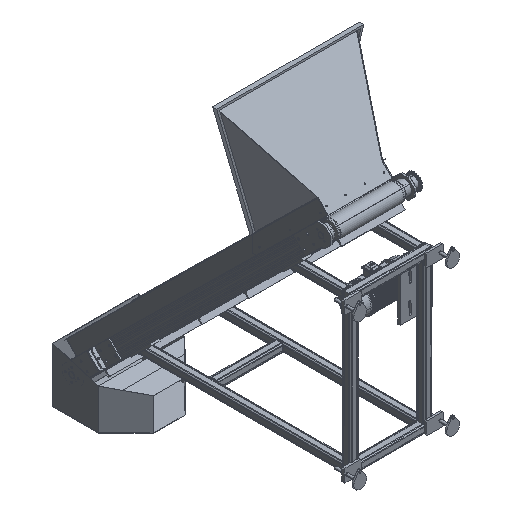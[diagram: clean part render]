
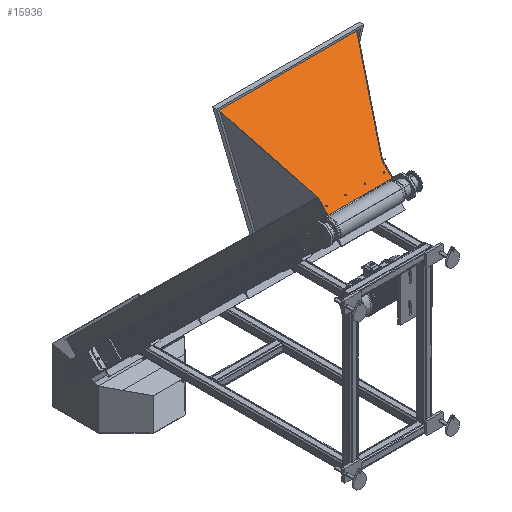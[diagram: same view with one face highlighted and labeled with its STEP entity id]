
A CAD part, isometric view. The second image highlights one B-rep face of the part: STEP entity #15936.
In plain terms, the highlighted planar face has unit normal (0, -0.712, 0.702) as drawn and (-0.707, -0.707, 0) by its records, which use the part's own axes.
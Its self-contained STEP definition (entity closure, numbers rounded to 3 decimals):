
#3262=PLANE('',#55453);
#4328=FACE_BOUND('',#21698,.T.);
#4329=FACE_BOUND('',#21699,.T.);
#4330=FACE_BOUND('',#21700,.T.);
#4331=FACE_BOUND('',#21701,.T.);
#4332=FACE_BOUND('',#21702,.T.);
#8718=LINE('',#74705,#12226);
#8721=LINE('',#74715,#12229);
#8722=LINE('',#74717,#12230);
#8723=LINE('',#74719,#12231);
#8724=LINE('',#74721,#12232);
#8725=LINE('',#74723,#12233);
#12226=VECTOR('',#61037,1.);
#12229=VECTOR('',#61050,1.);
#12230=VECTOR('',#61051,1.);
#12231=VECTOR('',#61052,1.);
#12232=VECTOR('',#61053,1.);
#12233=VECTOR('',#61054,1.);
#15936=ADVANCED_FACE('',(#4328,#4329,#4330,#4331,#4332),#3262,.F.);
#21698=EDGE_LOOP('',(#26607,#26608));
#21699=EDGE_LOOP('',(#26609,#26610));
#21700=EDGE_LOOP('',(#26611,#26612));
#21701=EDGE_LOOP('',(#26613,#26614));
#21702=EDGE_LOOP('',(#26615,#26616,#26617,#26618,#26619,#26620));
#26607=ORIENTED_EDGE('',*,*,#46214,.F.);
#26608=ORIENTED_EDGE('',*,*,#46161,.F.);
#26609=ORIENTED_EDGE('',*,*,#46215,.F.);
#26610=ORIENTED_EDGE('',*,*,#46165,.F.);
#26611=ORIENTED_EDGE('',*,*,#46216,.F.);
#26612=ORIENTED_EDGE('',*,*,#46169,.F.);
#26613=ORIENTED_EDGE('',*,*,#46217,.F.);
#26614=ORIENTED_EDGE('',*,*,#46173,.F.);
#26615=ORIENTED_EDGE('',*,*,#46218,.T.);
#26616=ORIENTED_EDGE('',*,*,#46211,.T.);
#26617=ORIENTED_EDGE('',*,*,#46219,.F.);
#26618=ORIENTED_EDGE('',*,*,#46220,.F.);
#26619=ORIENTED_EDGE('',*,*,#46221,.F.);
#26620=ORIENTED_EDGE('',*,*,#46222,.T.);
#40651=VERTEX_POINT('',#74594);
#40652=VERTEX_POINT('',#74596);
#40655=VERTEX_POINT('',#74603);
#40656=VERTEX_POINT('',#74605);
#40659=VERTEX_POINT('',#74612);
#40660=VERTEX_POINT('',#74614);
#40663=VERTEX_POINT('',#74621);
#40664=VERTEX_POINT('',#74623);
#40700=VERTEX_POINT('',#74704);
#40701=VERTEX_POINT('',#74706);
#40703=VERTEX_POINT('',#74716);
#40704=VERTEX_POINT('',#74718);
#40705=VERTEX_POINT('',#74720);
#40706=VERTEX_POINT('',#74722);
#46161=EDGE_CURVE('',#40651,#40652,#53116,.T.);
#46165=EDGE_CURVE('',#40655,#40656,#53118,.T.);
#46169=EDGE_CURVE('',#40659,#40660,#53120,.T.);
#46173=EDGE_CURVE('',#40663,#40664,#53122,.T.);
#46211=EDGE_CURVE('',#40701,#40700,#8718,.T.);
#46214=EDGE_CURVE('',#40652,#40651,#53135,.T.);
#46215=EDGE_CURVE('',#40656,#40655,#53136,.T.);
#46216=EDGE_CURVE('',#40660,#40659,#53137,.T.);
#46217=EDGE_CURVE('',#40664,#40663,#53138,.T.);
#46218=EDGE_CURVE('',#40703,#40701,#8721,.T.);
#46219=EDGE_CURVE('',#40704,#40700,#8722,.T.);
#46220=EDGE_CURVE('',#40705,#40704,#8723,.T.);
#46221=EDGE_CURVE('',#40706,#40705,#8724,.T.);
#46222=EDGE_CURVE('',#40706,#40703,#8725,.T.);
#53116=CIRCLE('',#55418,2.5);
#53118=CIRCLE('',#55421,2.5);
#53120=CIRCLE('',#55424,2.5);
#53122=CIRCLE('',#55427,2.5);
#53135=CIRCLE('',#55449,2.5);
#53136=CIRCLE('',#55450,2.5);
#53137=CIRCLE('',#55451,2.5);
#53138=CIRCLE('',#55452,2.5);
#55418=AXIS2_PLACEMENT_3D('',#74595,#60946,#60947);
#55421=AXIS2_PLACEMENT_3D('',#74604,#60954,#60955);
#55424=AXIS2_PLACEMENT_3D('',#74613,#60962,#60963);
#55427=AXIS2_PLACEMENT_3D('',#74622,#60970,#60971);
#55449=AXIS2_PLACEMENT_3D('',#74711,#61042,#61043);
#55450=AXIS2_PLACEMENT_3D('',#74712,#61044,#61045);
#55451=AXIS2_PLACEMENT_3D('',#74713,#61046,#61047);
#55452=AXIS2_PLACEMENT_3D('',#74714,#61048,#61049);
#55453=AXIS2_PLACEMENT_3D('',#74724,#61055,#61056);
#60946=DIRECTION('',(-0.707,-0.707,0.));
#60947=DIRECTION('',(0.707,-0.707,0.));
#60954=DIRECTION('',(-0.707,-0.707,0.));
#60955=DIRECTION('',(0.707,-0.707,0.));
#60962=DIRECTION('',(-0.707,-0.707,0.));
#60963=DIRECTION('',(0.707,-0.707,0.));
#60970=DIRECTION('',(-0.707,-0.707,0.));
#60971=DIRECTION('',(0.707,-0.707,0.));
#61037=DIRECTION('',(0.,0.,-1.));
#61042=DIRECTION('',(-0.707,-0.707,0.));
#61043=DIRECTION('',(0.707,-0.707,0.));
#61044=DIRECTION('',(-0.707,-0.707,0.));
#61045=DIRECTION('',(0.707,-0.707,0.));
#61046=DIRECTION('',(-0.707,-0.707,0.));
#61047=DIRECTION('',(0.707,-0.707,0.));
#61048=DIRECTION('',(-0.707,-0.707,0.));
#61049=DIRECTION('',(0.707,-0.707,0.));
#61050=DIRECTION('',(-0.652,0.652,0.385));
#61051=DIRECTION('',(-0.652,0.652,-0.385));
#61052=DIRECTION('',(-0.707,0.707,0.));
#61053=DIRECTION('',(0.,0.,-1.));
#61054=DIRECTION('',(-0.707,0.707,0.));
#61055=DIRECTION('',(0.707,0.707,0.));
#61056=DIRECTION('',(0.707,-0.707,0.));
#74594=CARTESIAN_POINT('',(-372.981,-327.019,283.));
#74595=CARTESIAN_POINT('',(-371.213,-328.787,283.));
#74596=CARTESIAN_POINT('',(-369.445,-330.555,283.));
#74603=CARTESIAN_POINT('',(-372.981,-327.019,193.));
#74604=CARTESIAN_POINT('',(-371.213,-328.787,193.));
#74605=CARTESIAN_POINT('',(-369.445,-330.555,193.));
#74612=CARTESIAN_POINT('',(-372.981,-327.019,373.));
#74613=CARTESIAN_POINT('',(-371.213,-328.787,373.));
#74614=CARTESIAN_POINT('',(-369.445,-330.555,373.));
#74621=CARTESIAN_POINT('',(-372.981,-327.019,463.));
#74622=CARTESIAN_POINT('',(-371.213,-328.787,463.));
#74623=CARTESIAN_POINT('',(-369.445,-330.555,463.));
#74704=CARTESIAN_POINT('',(-700.,0.,0.));
#74705=CARTESIAN_POINT('',(-700.,0.,660.));
#74706=CARTESIAN_POINT('',(-700.,0.,660.));
#74711=CARTESIAN_POINT('',(-371.213,-328.787,283.));
#74712=CARTESIAN_POINT('',(-371.213,-328.787,193.));
#74713=CARTESIAN_POINT('',(-371.213,-328.787,373.));
#74714=CARTESIAN_POINT('',(-371.213,-328.787,463.));
#74715=CARTESIAN_POINT('',(-236.018,-463.982,385.936));
#74716=CARTESIAN_POINT('',(-399.497,-300.503,482.5));
#74717=CARTESIAN_POINT('',(-401.988,-298.012,176.029));
#74718=CARTESIAN_POINT('',(-399.497,-300.503,177.5));
#74719=CARTESIAN_POINT('',(-350.,-350.,177.5));
#74720=CARTESIAN_POINT('',(-350.,-350.,177.5));
#74721=CARTESIAN_POINT('',(-350.,-350.,660.));
#74722=CARTESIAN_POINT('',(-350.,-350.,482.5));
#74723=CARTESIAN_POINT('',(-350.,-350.,482.5));
#74724=CARTESIAN_POINT('',(-700.,0.,660.));
